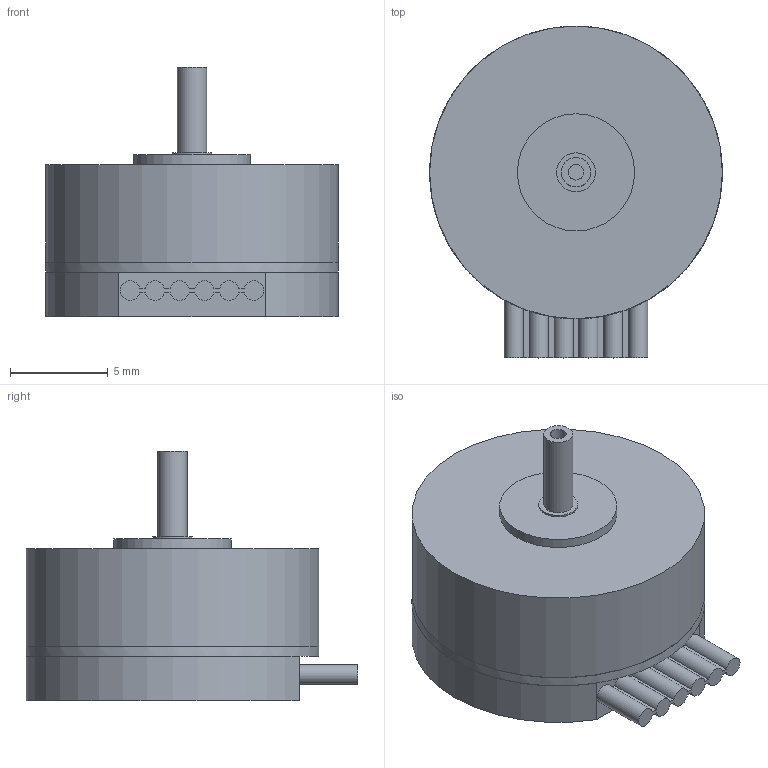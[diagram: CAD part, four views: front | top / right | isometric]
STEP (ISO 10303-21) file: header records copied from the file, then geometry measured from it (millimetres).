
FILE_DESCRIPTION(/* description */ (''),/* implementation_level */ '2;1');
FILE_NAME(/* name */ '1506N_SR_IE2-8.stp',/* time_stamp */ '2017-07-13T13:52:37+02:00',/* author */ ('DR. FRITZ FAULHABER GmbH & Co. KG'),/* organization */ ('DR. FRITZ FAULHABER GmbH & Co. KG'),/* preprocessor_version */ 'ST-DEVELOPER v16',/* originating_system */ 'SIEMENS PLM Software NX 10.0',/* authorisation */ '');
FILE_SCHEMA (('AUTOMOTIVE_DESIGN { 1 0 10303 214 3 1 1 1 }'));
Length unit declared in the file: millimetre
Products named in the file (1): Alle_Motoren
Bounding box: 15 x 17 x 12.8 mm (x, y, z)
Volume: 1403.1 mm3; surface area: 815 mm2
Topology: 1 solids, 1 shells, 41 faces, 94 edges, 63 vertices
Faces by surface type: plane 22, cylinder 19
Full cylindrical faces by diameter (mm): 0.801 x1, 1.5 x1, 2 x1, 6 x1, 14.99 x1, 15 x2
Entity records: 1163 total; most frequent: DIRECTION 206, CARTESIAN_POINT 202, ORIENTED_EDGE 172, EDGE_CURVE 86, AXIS2_PLACEMENT_3D 79, VERTEX_POINT 62, EDGE_LOOP 56, LINE 48
